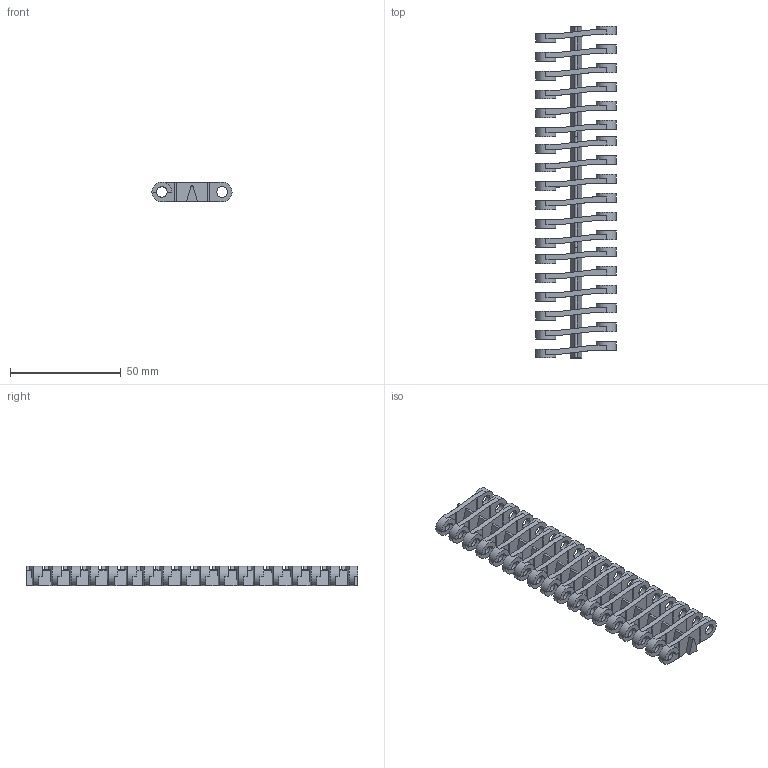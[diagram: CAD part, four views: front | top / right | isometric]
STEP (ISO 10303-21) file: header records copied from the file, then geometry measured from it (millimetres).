
FILE_DESCRIPTION(('CATIA V5 STEP Exchange'),'2;1');
FILE_NAME('C:\Users\ALI OZGUN\Desktop\alhan\965B01K5150.stp','2017-08-17T05:56:48+00:00',('none'),('none'),'CATIA Version 5 Release 21 GA (IN-10)','CATIA V5 STEP AP203','none');
FILE_SCHEMA(('CONFIG_CONTROL_DESIGN'));
Length unit declared in the file: millimetre
Products named in the file (1): 965B01K5150
Bounding box: 36.2 x 150 x 9 mm (x, y, z)
Volume: 14926.8 mm3; surface area: 17613.4 mm2
Topology: 1 solids, 1 shells, 494 faces, 1522 edges, 1012 vertices
Faces by surface type: plane 275, cylinder 219
Entity records: 15681 total; most frequent: ORIENTED_EDGE 3044, CARTESIAN_POINT 2966, DIRECTION 1988, EDGE_CURVE 1522, VECTOR 1014, LINE 1014, VERTEX_POINT 1012, AXIS2_PLACEMENT_3D 724
